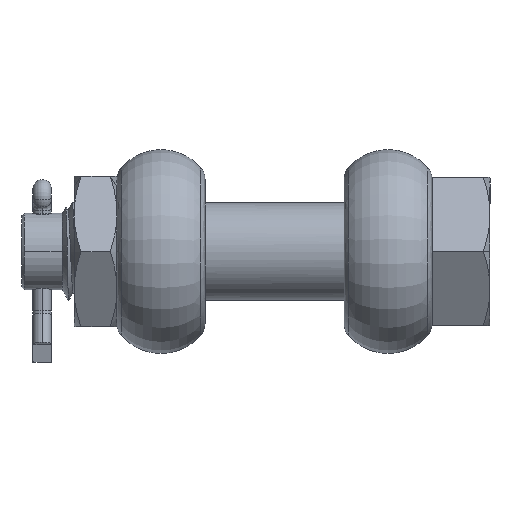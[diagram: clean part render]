
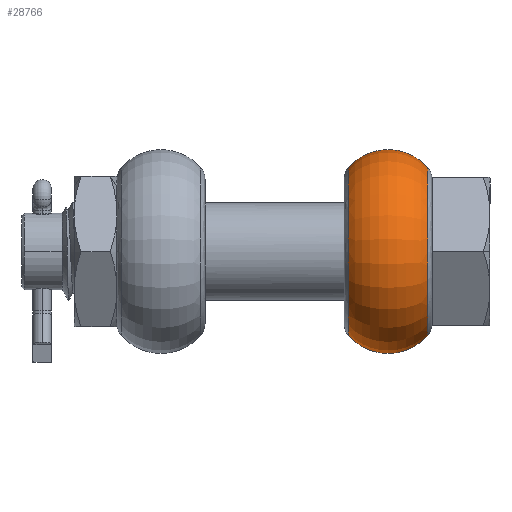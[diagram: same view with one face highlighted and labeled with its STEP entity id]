
A CAD part, front view. The second image highlights one B-rep face of the part: STEP entity #28766.
In plain terms, the highlighted toroidal (fillet/blend) face has major radius 21.2 mm and minor radius 22.8 mm.
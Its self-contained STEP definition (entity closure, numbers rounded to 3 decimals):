
#11822 = AXIS2_PLACEMENT_3D ( 'NONE', #11838, #11837, #11836 ) ;
#11823 = TOROIDAL_SURFACE ( 'NONE', #11822, 21.2, 22.8 ) ;
#11825 = FACE_OUTER_BOUND ( 'NONE', #28767, .T. ) ;
#11836 = DIRECTION ( 'NONE',  ( 0., 0., -1. ) ) ;
#11837 = DIRECTION ( 'NONE',  ( 1., 0., 0. ) ) ;
#11838 = CARTESIAN_POINT ( 'NONE',  ( 49., 0., 0. ) ) ;
#12519 = DIRECTION ( 'NONE',  ( 0., -1., 0. ) ) ;
#12520 = CARTESIAN_POINT ( 'NONE',  ( 49., 0., -21.2 ) ) ;
#12521 = AXIS2_PLACEMENT_3D ( 'NONE', #12520, #12519, #12563 ) ;
#12522 = CIRCLE ( 'NONE', #12521, 22.8 ) ;
#12523 = CARTESIAN_POINT ( 'NONE',  ( 31.9, 0., -36.281 ) ) ;
#12524 = DIRECTION ( 'NONE',  ( 0., 1., 0. ) ) ;
#12525 = DIRECTION ( 'NONE',  ( -1., 0., 0. ) ) ;
#12526 = CARTESIAN_POINT ( 'NONE',  ( 31.9, 0., 0. ) ) ;
#12527 = AXIS2_PLACEMENT_3D ( 'NONE', #12526, #12525, #12524 ) ;
#12528 = CIRCLE ( 'NONE', #12527, 36.281 ) ;
#12557 = DIRECTION ( 'NONE',  ( 0., -1., 0. ) ) ;
#12558 = DIRECTION ( 'NONE',  ( 1., 0., 0. ) ) ;
#12559 = CARTESIAN_POINT ( 'NONE',  ( 66.1, 0., 0. ) ) ;
#12560 = AXIS2_PLACEMENT_3D ( 'NONE', #12559, #12558, #12557 ) ;
#12561 = CIRCLE ( 'NONE', #12560, 36.281 ) ;
#12562 = CARTESIAN_POINT ( 'NONE',  ( 66.1, 0., -36.281 ) ) ;
#12563 = DIRECTION ( 'NONE',  ( 0., 0., -1. ) ) ;
#12602 = CARTESIAN_POINT ( 'NONE',  ( 66.1, 0., 36.281 ) ) ;
#12603 = DIRECTION ( 'NONE',  ( 0., 0., 1. ) ) ;
#12604 = DIRECTION ( 'NONE',  ( 0., 1., 0. ) ) ;
#12605 = CARTESIAN_POINT ( 'NONE',  ( 49., 0., 21.2 ) ) ;
#12606 = AXIS2_PLACEMENT_3D ( 'NONE', #12605, #12604, #12603 ) ;
#12607 = CIRCLE ( 'NONE', #12606, 22.8 ) ;
#12608 = CARTESIAN_POINT ( 'NONE',  ( 31.9, 0., 36.281 ) ) ;
#28766 = ADVANCED_FACE ( 'NONE', ( #11825 ), #11823, .T. ) ;
#28767 = EDGE_LOOP ( 'NONE', ( #28768, #28769, #29059, #29062 ) ) ;
#28768 = ORIENTED_EDGE ( 'NONE', *, *, #29098, .F. ) ;
#28769 = ORIENTED_EDGE ( 'NONE', *, *, #29057, .F. ) ;
#29057 = EDGE_CURVE ( 'NONE', #29058, #29096, #12528, .T. ) ;
#29058 = VERTEX_POINT ( 'NONE', #12523 ) ;
#29059 = ORIENTED_EDGE ( 'NONE', *, *, #29060, .T. ) ;
#29060 = EDGE_CURVE ( 'NONE', #29058, #29061, #12522, .T. ) ;
#29061 = VERTEX_POINT ( 'NONE', #12562 ) ;
#29062 = ORIENTED_EDGE ( 'NONE', *, *, #29063, .F. ) ;
#29063 = EDGE_CURVE ( 'NONE', #29099, #29061, #12561, .T. ) ;
#29096 = VERTEX_POINT ( 'NONE', #12608 ) ;
#29098 = EDGE_CURVE ( 'NONE', #29096, #29099, #12607, .T. ) ;
#29099 = VERTEX_POINT ( 'NONE', #12602 ) ;
